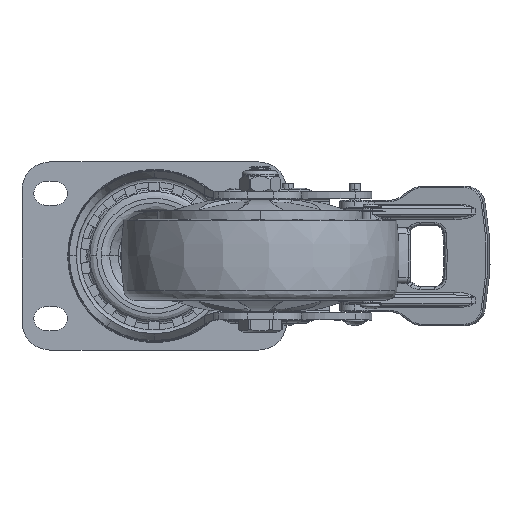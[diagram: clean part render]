
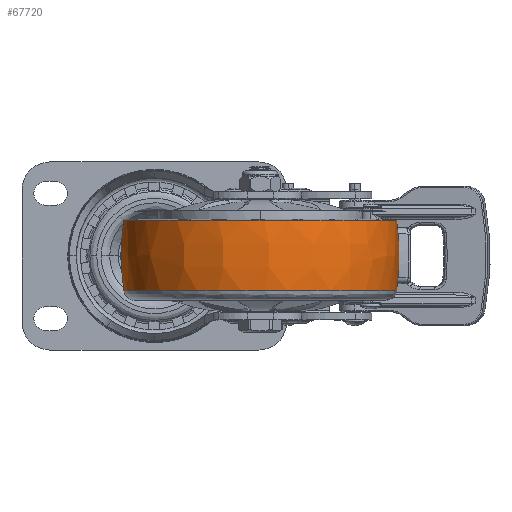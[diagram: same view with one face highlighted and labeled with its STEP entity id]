
A CAD part, top view. The second image highlights one B-rep face of the part: STEP entity #67720.
In plain terms, the highlighted free-form (B-spline) face has degree [3, 3] with [4, 4] control points.
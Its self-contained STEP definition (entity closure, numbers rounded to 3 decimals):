
#699 = VERTEX_POINT ( 'NONE', #26476 ) ;
#4847 = CARTESIAN_POINT ( 'NONE',  ( 38., 12.632, 74. ) ) ;
#9620 = AXIS2_PLACEMENT_3D ( 'NONE', #44998, #173092, #102326 ) ;
#12057 = EDGE_CURVE ( 'NONE', #699, #22940, #87937, .T. ) ;
#12814 = FACE_OUTER_BOUND ( 'NONE', #13188, .T. ) ;
#13188 = EDGE_LOOP ( 'NONE', ( #34384, #170832, #60880, #169057, #186196, #106597, #130526 ) ) ;
#19363 = CARTESIAN_POINT ( 'NONE',  ( 94.559, 4.246, 171.315 ) ) ;
#20303 = CARTESIAN_POINT ( 'NONE',  ( 93.053, -12.632, 168.723 ) ) ;
#22940 = VERTEX_POINT ( 'NONE', #135987 ) ;
#25031 = AXIS2_PLACEMENT_3D ( 'NONE', #176697, #91781, #60821 ) ;
#25417 = DIRECTION ( 'NONE',  ( -0.984, 0.164, 0.062 ) ) ;
#26476 = CARTESIAN_POINT ( 'NONE',  ( -10.9, 12.632, 77.077 ) ) ;
#28257 = EDGE_CURVE ( 'NONE', #152831, #47584, #100085, .T. ) ;
#28758 = AXIS2_PLACEMENT_3D ( 'NONE', #123150, #141025, #25417 ) ;
#32014 = CARTESIAN_POINT ( 'NONE',  ( -10.9, -12.632, 77.077 ) ) ;
#33473 = CARTESIAN_POINT ( 'NONE',  ( 86.9, 12.632, 70.923 ) ) ;
#34060 = CARTESIAN_POINT ( 'NONE',  ( 86.996, 12.632, 74. ) ) ;
#34384 = ORIENTED_EDGE ( 'NONE', *, *, #12057, .F. ) ;
#34389 = CARTESIAN_POINT ( 'NONE',  ( 86.9, -12.632, 70.923 ) ) ;
#44998 = CARTESIAN_POINT ( 'NONE',  ( 8.059, 0., 75.884 ) ) ;
#46538 = CARTESIAN_POINT ( 'NONE',  ( -4.747, -12.632, 174.876 ) ) ;
#47037 = DIRECTION ( 'NONE',  ( -1., 0., -0.004 ) ) ;
#47584 = VERTEX_POINT ( 'NONE', #47971 ) ;
#47971 = CARTESIAN_POINT ( 'NONE',  ( 86.9, 12.632, 70.923 ) ) ;
#52208 = CIRCLE ( 'NONE', #175538, 48.996 ) ;
#60405 = EDGE_CURVE ( 'NONE', #47584, #125208, #129810, .T. ) ;
#60821 = DIRECTION ( 'NONE',  ( -1., 0., -0.006 ) ) ;
#60880 = ORIENTED_EDGE ( 'NONE', *, *, #70739, .F. ) ;
#62084 = DIRECTION ( 'NONE',  ( 0., 1., 0. ) ) ;
#62421 = CARTESIAN_POINT ( 'NONE',  ( -10.9, 12.632, 77.077 ) ) ;
#65681 =( BOUNDED_SURFACE ( )  B_SPLINE_SURFACE ( 3, 3, ( 
 ( #33473, #146309, #175564, #62421 ),
 ( #149099, #19363, #73748, #147246 ),
 ( #119919, #105746, #74686, #163212 ),
 ( #34389, #20303, #46538, #160400 ) ),
 .UNSPECIFIED., .F., .F., .F. ) 
 B_SPLINE_SURFACE_WITH_KNOTS ( ( 4, 4 ),
 ( 4, 4 ),
 ( 0., 1. ),
 ( 0., 1. ),
 .UNSPECIFIED. ) 
 GEOMETRIC_REPRESENTATION_ITEM ( )  RATIONAL_B_SPLINE_SURFACE ( (
 ( 1., 0.333, 0.333, 1.),
 ( 0.992, 0.331, 0.331, 0.992),
 ( 0.992, 0.331, 0.331, 0.992),
 ( 1., 0.333, 0.333, 1.) ) ) 
 REPRESENTATION_ITEM ( '' )  SURFACE ( )  );
#67720 = ADVANCED_FACE ( 'NONE', ( #12814 ), #65681, .F. ) ;
#69301 = DIRECTION ( 'NONE',  ( -1., 0., -0.004 ) ) ;
#69887 = CARTESIAN_POINT ( 'NONE',  ( 86.996, -12.632, 74.21 ) ) ;
#70739 = EDGE_CURVE ( 'NONE', #174751, #160046, #134117, .T. ) ;
#73748 = CARTESIAN_POINT ( 'NONE',  ( -5.917, 4.246, 177.637 ) ) ;
#74686 = CARTESIAN_POINT ( 'NONE',  ( -5.917, -4.246, 177.637 ) ) ;
#83435 = DIRECTION ( 'NONE',  ( 0., -1., 0. ) ) ;
#87937 = CIRCLE ( 'NONE', #25031, 48.996 ) ;
#88776 = DIRECTION ( 'NONE',  ( 0., -1., 0. ) ) ;
#91781 = DIRECTION ( 'NONE',  ( 0., 1., 0. ) ) ;
#92699 = AXIS2_PLACEMENT_3D ( 'NONE', #114529, #83435, #69301 ) ;
#100085 = CIRCLE ( 'NONE', #139260, 48.996 ) ;
#102326 = DIRECTION ( 'NONE',  ( 0.984, 0.164, -0.062 ) ) ;
#105746 = CARTESIAN_POINT ( 'NONE',  ( 94.559, -4.246, 171.315 ) ) ;
#106597 = ORIENTED_EDGE ( 'NONE', *, *, #28257, .F. ) ;
#109724 = CIRCLE ( 'NONE', #28758, 80. ) ;
#114529 = CARTESIAN_POINT ( 'NONE',  ( 38., -12.632, 74. ) ) ;
#119577 = DIRECTION ( 'NONE',  ( 1., 0., 0.006 ) ) ;
#119919 = CARTESIAN_POINT ( 'NONE',  ( 88.238, -4.246, 70.839 ) ) ;
#123150 = CARTESIAN_POINT ( 'NONE',  ( 67.941, 0., 72.116 ) ) ;
#124949 = EDGE_CURVE ( 'NONE', #152831, #22940, #52208, .T. ) ;
#125208 = VERTEX_POINT ( 'NONE', #166417 ) ;
#129810 = CIRCLE ( 'NONE', #9620, 80. ) ;
#130526 = ORIENTED_EDGE ( 'NONE', *, *, #124949, .T. ) ;
#131796 = CARTESIAN_POINT ( 'NONE',  ( 38., -12.632, 74. ) ) ;
#134117 = CIRCLE ( 'NONE', #143160, 48.996 ) ;
#135987 = CARTESIAN_POINT ( 'NONE',  ( 86.995, 12.632, 74.311 ) ) ;
#138508 = EDGE_CURVE ( 'NONE', #125208, #174751, #155955, .T. ) ;
#139260 = AXIS2_PLACEMENT_3D ( 'NONE', #4847, #62084, #119577 ) ;
#141025 = DIRECTION ( 'NONE',  ( 0.063, 0., 0.998 ) ) ;
#143160 = AXIS2_PLACEMENT_3D ( 'NONE', #131796, #146809, #47037 ) ;
#146298 = DIRECTION ( 'NONE',  ( 0.998, 0., -0.063 ) ) ;
#146309 = CARTESIAN_POINT ( 'NONE',  ( 93.053, 12.632, 168.723 ) ) ;
#146809 = DIRECTION ( 'NONE',  ( 0., -1., 0. ) ) ;
#147246 = CARTESIAN_POINT ( 'NONE',  ( -12.238, 4.246, 77.161 ) ) ;
#149099 = CARTESIAN_POINT ( 'NONE',  ( 88.238, 4.246, 70.839 ) ) ;
#152831 = VERTEX_POINT ( 'NONE', #34060 ) ;
#155955 = CIRCLE ( 'NONE', #92699, 48.996 ) ;
#160046 = VERTEX_POINT ( 'NONE', #32014 ) ;
#160400 = CARTESIAN_POINT ( 'NONE',  ( -10.9, -12.632, 77.077 ) ) ;
#163212 = CARTESIAN_POINT ( 'NONE',  ( -12.238, -4.246, 77.161 ) ) ;
#166417 = CARTESIAN_POINT ( 'NONE',  ( 86.9, -12.632, 70.923 ) ) ;
#168080 = EDGE_CURVE ( 'NONE', #699, #160046, #109724, .T. ) ;
#169057 = ORIENTED_EDGE ( 'NONE', *, *, #138508, .F. ) ;
#170832 = ORIENTED_EDGE ( 'NONE', *, *, #168080, .T. ) ;
#173092 = DIRECTION ( 'NONE',  ( -0.063, 0., -0.998 ) ) ;
#174751 = VERTEX_POINT ( 'NONE', #69887 ) ;
#175538 = AXIS2_PLACEMENT_3D ( 'NONE', #175548, #88776, #146298 ) ;
#175548 = CARTESIAN_POINT ( 'NONE',  ( 38., 12.632, 74. ) ) ;
#175564 = CARTESIAN_POINT ( 'NONE',  ( -4.747, 12.632, 174.876 ) ) ;
#176697 = CARTESIAN_POINT ( 'NONE',  ( 38., 12.632, 74. ) ) ;
#186196 = ORIENTED_EDGE ( 'NONE', *, *, #60405, .F. ) ;
